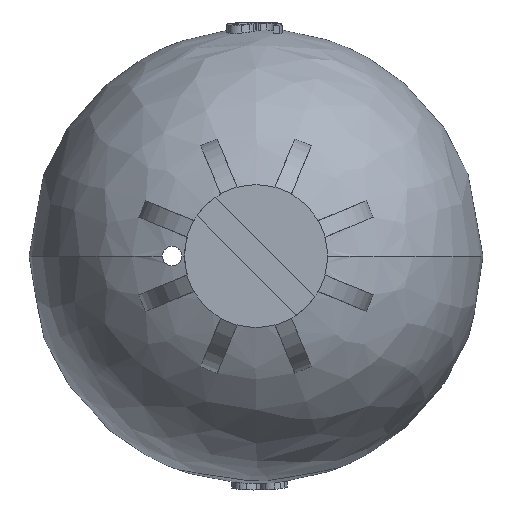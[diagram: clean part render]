
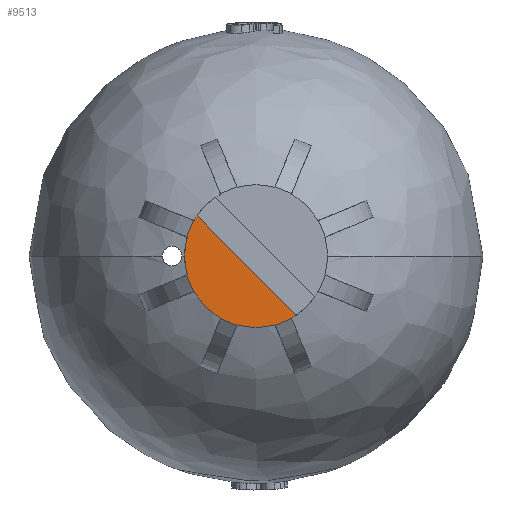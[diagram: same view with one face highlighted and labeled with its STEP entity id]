
A CAD part, left-side view. The second image highlights one B-rep face of the part: STEP entity #9513.
In plain terms, the highlighted planar face has unit normal (-1, 0, 0).
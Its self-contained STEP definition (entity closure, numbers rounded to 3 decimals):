
#595 = EDGE_CURVE ( 'NONE', #11705, #11704, #2708, .T. ) ;
#598 = EDGE_CURVE ( 'NONE', #11697, #11710, #6821, .T. ) ;
#601 = EDGE_CURVE ( 'NONE', #11653, #11652, #6826, .T. ) ;
#604 = EDGE_CURVE ( 'NONE', #11655, #11654, #6829, .T. ) ;
#607 = EDGE_CURVE ( 'NONE', #11657, #11656, #6823, .T. ) ;
#616 = EDGE_CURVE ( 'NONE', #11665, #11664, #5432, .T. ) ;
#617 = EDGE_CURVE ( 'NONE', #11710, #11664, #5433, .T. ) ;
#618 = EDGE_CURVE ( 'NONE', #11705, #11665, #5434, .T. ) ;
#619 = EDGE_CURVE ( 'NONE', #11657, #11704, #5435, .T. ) ;
#620 = EDGE_CURVE ( 'NONE', #11656, #11666, #5436, .T. ) ;
#621 = EDGE_CURVE ( 'NONE', #11667, #11666, #5437, .T. ) ;
#622 = EDGE_CURVE ( 'NONE', #11655, #11667, #5438, .T. ) ;
#623 = EDGE_CURVE ( 'NONE', #11654, #11668, #5439, .T. ) ;
#624 = EDGE_CURVE ( 'NONE', #11669, #11668, #5440, .T. ) ;
#625 = EDGE_CURVE ( 'NONE', #11653, #11669, #5441, .T. ) ;
#626 = EDGE_CURVE ( 'NONE', #11652, #11670, #5442, .T. ) ;
#627 = EDGE_CURVE ( 'NONE', #11671, #11670, #5443, .T. ) ;
#628 = EDGE_CURVE ( 'NONE', #11697, #11671, #5444, .T. ) ;
#2708 = CIRCLE ( 'NONE', #2710, 3.999 ) ;
#2710 = AXIS2_PLACEMENT_3D ( 'NONE', #6130, #6131, #6132 ) ;
#5432 = LINE ( 'NONE', #6180, #6847 ) ;
#5433 = LINE ( 'NONE', #6182, #6848 ) ;
#5434 = LINE ( 'NONE', #6184, #6849 ) ;
#5435 = LINE ( 'NONE', #6186, #6850 ) ;
#5436 = LINE ( 'NONE', #6188, #6851 ) ;
#5437 = LINE ( 'NONE', #6190, #6852 ) ;
#5438 = LINE ( 'NONE', #6192, #6853 ) ;
#5439 = LINE ( 'NONE', #6194, #6854 ) ;
#5440 = LINE ( 'NONE', #6196, #6855 ) ;
#5441 = LINE ( 'NONE', #6198, #6856 ) ;
#5442 = LINE ( 'NONE', #6200, #6857 ) ;
#5443 = LINE ( 'NONE', #6202, #6858 ) ;
#5444 = LINE ( 'NONE', #6204, #6859 ) ;
#5500 = FACE_OUTER_BOUND ( 'NONE', #10700, .T. ) ;
#6130 = CARTESIAN_POINT ( 'NONE',  ( -26.087, 0., 0. ) ) ;
#6131 = DIRECTION ( 'NONE',  ( -1., 0., 0. ) ) ;
#6132 = DIRECTION ( 'NONE',  ( 0., -1., 0. ) ) ;
#6137 = CARTESIAN_POINT ( 'NONE',  ( -26.087, 0., 0. ) ) ;
#6138 = DIRECTION ( 'NONE',  ( -1., 0., 0. ) ) ;
#6139 = DIRECTION ( 'NONE',  ( 0., -1., 0. ) ) ;
#6144 = CARTESIAN_POINT ( 'NONE',  ( -26.087, 0., 0. ) ) ;
#6145 = DIRECTION ( 'NONE',  ( -1., 0., 0. ) ) ;
#6146 = DIRECTION ( 'NONE',  ( 0., -1., 0. ) ) ;
#6151 = CARTESIAN_POINT ( 'NONE',  ( -26.087, 0., 0. ) ) ;
#6152 = DIRECTION ( 'NONE',  ( -1., 0., 0. ) ) ;
#6153 = DIRECTION ( 'NONE',  ( 0., -1., 0. ) ) ;
#6158 = CARTESIAN_POINT ( 'NONE',  ( -26.087, 0., 0. ) ) ;
#6159 = DIRECTION ( 'NONE',  ( -1., 0., 0. ) ) ;
#6160 = DIRECTION ( 'NONE',  ( 0., -1., 0. ) ) ;
#6180 = CARTESIAN_POINT ( 'NONE',  ( -26.087, -1.992, -3.503 ) ) ;
#6181 = DIRECTION ( 'NONE',  ( 0., 0.924, -0.383 ) ) ;
#6182 = CARTESIAN_POINT ( 'NONE',  ( -26.087, -0.916, -3.518 ) ) ;
#6183 = DIRECTION ( 'NONE',  ( 0., -0.383, -0.924 ) ) ;
#6184 = CARTESIAN_POINT ( 'NONE',  ( -26.087, -1.84, -3.135 ) ) ;
#6185 = DIRECTION ( 'NONE',  ( 0., -0.383, -0.924 ) ) ;
#6186 = CARTESIAN_POINT ( 'NONE',  ( -26.087, 2.53, 1.469 ) ) ;
#6187 = DIRECTION ( 'NONE',  ( 0., -0.707, -0.707 ) ) ;
#6188 = CARTESIAN_POINT ( 'NONE',  ( -26.087, 3.135, 1.84 ) ) ;
#6189 = DIRECTION ( 'NONE',  ( 0., 0.924, 0.383 ) ) ;
#6190 = CARTESIAN_POINT ( 'NONE',  ( -26.087, 3.886, 1.068 ) ) ;
#6191 = DIRECTION ( 'NONE',  ( 0., -0.383, 0.924 ) ) ;
#6192 = CARTESIAN_POINT ( 'NONE',  ( -26.087, 3.518, 0.916 ) ) ;
#6193 = DIRECTION ( 'NONE',  ( 0., 0.924, 0.383 ) ) ;
#6194 = CARTESIAN_POINT ( 'NONE',  ( -26.087, 3.518, -0.916 ) ) ;
#6195 = DIRECTION ( 'NONE',  ( 0., 0.924, -0.383 ) ) ;
#6196 = CARTESIAN_POINT ( 'NONE',  ( -26.087, 3.503, -1.992 ) ) ;
#6197 = DIRECTION ( 'NONE',  ( 0., 0.383, 0.924 ) ) ;
#6198 = CARTESIAN_POINT ( 'NONE',  ( -26.087, 3.135, -1.84 ) ) ;
#6199 = DIRECTION ( 'NONE',  ( 0., 0.924, -0.383 ) ) ;
#6200 = CARTESIAN_POINT ( 'NONE',  ( -26.087, 1.84, -3.135 ) ) ;
#6201 = DIRECTION ( 'NONE',  ( 0., 0.383, -0.924 ) ) ;
#6202 = CARTESIAN_POINT ( 'NONE',  ( -26.087, 1.068, -3.886 ) ) ;
#6203 = DIRECTION ( 'NONE',  ( 0., 0.924, 0.383 ) ) ;
#6204 = CARTESIAN_POINT ( 'NONE',  ( -26.087, 0.916, -3.518 ) ) ;
#6205 = DIRECTION ( 'NONE',  ( 0., 0.383, -0.924 ) ) ;
#6821 = CIRCLE ( 'NONE', #6822, 3.999 ) ;
#6822 = AXIS2_PLACEMENT_3D ( 'NONE', #6137, #6138, #6139 ) ;
#6823 = CIRCLE ( 'NONE', #6837, 3.999 ) ;
#6826 = CIRCLE ( 'NONE', #6828, 3.999 ) ;
#6828 = AXIS2_PLACEMENT_3D ( 'NONE', #6144, #6145, #6146 ) ;
#6829 = CIRCLE ( 'NONE', #6833, 3.999 ) ;
#6833 = AXIS2_PLACEMENT_3D ( 'NONE', #6151, #6152, #6153 ) ;
#6837 = AXIS2_PLACEMENT_3D ( 'NONE', #6158, #6159, #6160 ) ;
#6847 = VECTOR ( 'NONE', #6181, 1000. ) ;
#6848 = VECTOR ( 'NONE', #6183, 1000. ) ;
#6849 = VECTOR ( 'NONE', #6185, 1000. ) ;
#6850 = VECTOR ( 'NONE', #6187, 1000. ) ;
#6851 = VECTOR ( 'NONE', #6189, 1000. ) ;
#6852 = VECTOR ( 'NONE', #6191, 1000. ) ;
#6853 = VECTOR ( 'NONE', #6193, 1000. ) ;
#6854 = VECTOR ( 'NONE', #6195, 1000. ) ;
#6855 = VECTOR ( 'NONE', #6197, 1000. ) ;
#6856 = VECTOR ( 'NONE', #6199, 1000. ) ;
#6857 = VECTOR ( 'NONE', #6201, 1000. ) ;
#6858 = VECTOR ( 'NONE', #6203, 1000. ) ;
#6859 = VECTOR ( 'NONE', #6205, 1000. ) ;
#6977 = AXIS2_PLACEMENT_3D ( 'NONE', #7234, #7235, #7236 ) ;
#7233 = PLANE ( 'NONE',  #6977 ) ;
#7234 = CARTESIAN_POINT ( 'NONE',  ( -26.087, 3.999, 0. ) ) ;
#7235 = DIRECTION ( 'NONE',  ( 1., 0., 0. ) ) ;
#7236 = DIRECTION ( 'NONE',  ( 0., 1., 0. ) ) ;
#9103 = CARTESIAN_POINT ( 'NONE',  ( -26.087, 1.98, -3.474 ) ) ;
#9104 = CARTESIAN_POINT ( 'NONE',  ( -26.087, 3.474, -1.98 ) ) ;
#9105 = CARTESIAN_POINT ( 'NONE',  ( -26.087, 3.857, -1.056 ) ) ;
#9106 = CARTESIAN_POINT ( 'NONE',  ( -26.087, 3.857, 1.056 ) ) ;
#9107 = CARTESIAN_POINT ( 'NONE',  ( -26.087, 3.474, 1.98 ) ) ;
#9108 = CARTESIAN_POINT ( 'NONE',  ( -26.087, 3.308, 2.247 ) ) ;
#9115 = CARTESIAN_POINT ( 'NONE',  ( -26.087, -1.068, -3.886 ) ) ;
#9116 = CARTESIAN_POINT ( 'NONE',  ( -26.087, -1.992, -3.503 ) ) ;
#9117 = CARTESIAN_POINT ( 'NONE',  ( -26.087, 3.503, 1.992 ) ) ;
#9118 = CARTESIAN_POINT ( 'NONE',  ( -26.087, 3.886, 1.068 ) ) ;
#9119 = CARTESIAN_POINT ( 'NONE',  ( -26.087, 3.886, -1.068 ) ) ;
#9120 = CARTESIAN_POINT ( 'NONE',  ( -26.087, 3.503, -1.992 ) ) ;
#9121 = CARTESIAN_POINT ( 'NONE',  ( -26.087, 1.992, -3.503 ) ) ;
#9122 = CARTESIAN_POINT ( 'NONE',  ( -26.087, 1.068, -3.886 ) ) ;
#9148 = CARTESIAN_POINT ( 'NONE',  ( -26.087, 1.056, -3.857 ) ) ;
#9155 = CARTESIAN_POINT ( 'NONE',  ( -26.087, -2.247, -3.308 ) ) ;
#9156 = CARTESIAN_POINT ( 'NONE',  ( -26.087, -1.98, -3.474 ) ) ;
#9161 = CARTESIAN_POINT ( 'NONE',  ( -26.087, -1.056, -3.857 ) ) ;
#9513 = ADVANCED_FACE ( 'NONE', ( #5500 ), #7233, .F. ) ;
#10700 = EDGE_LOOP ( 'NONE', ( #12113, #12115, #12114, #12116, #12117, #12118, #12119, #12121, #12120, #12122, #12123, #12125, #12124, #12126, #12127, #12129, #12128, #12130 ) ) ;
#11652 = VERTEX_POINT ( 'NONE', #9103 ) ;
#11653 = VERTEX_POINT ( 'NONE', #9104 ) ;
#11654 = VERTEX_POINT ( 'NONE', #9105 ) ;
#11655 = VERTEX_POINT ( 'NONE', #9106 ) ;
#11656 = VERTEX_POINT ( 'NONE', #9107 ) ;
#11657 = VERTEX_POINT ( 'NONE', #9108 ) ;
#11664 = VERTEX_POINT ( 'NONE', #9115 ) ;
#11665 = VERTEX_POINT ( 'NONE', #9116 ) ;
#11666 = VERTEX_POINT ( 'NONE', #9117 ) ;
#11667 = VERTEX_POINT ( 'NONE', #9118 ) ;
#11668 = VERTEX_POINT ( 'NONE', #9119 ) ;
#11669 = VERTEX_POINT ( 'NONE', #9120 ) ;
#11670 = VERTEX_POINT ( 'NONE', #9121 ) ;
#11671 = VERTEX_POINT ( 'NONE', #9122 ) ;
#11697 = VERTEX_POINT ( 'NONE', #9148 ) ;
#11704 = VERTEX_POINT ( 'NONE', #9155 ) ;
#11705 = VERTEX_POINT ( 'NONE', #9156 ) ;
#11710 = VERTEX_POINT ( 'NONE', #9161 ) ;
#12113 = ORIENTED_EDGE ( 'NONE', *, *, #617, .T. ) ;
#12114 = ORIENTED_EDGE ( 'NONE', *, *, #618, .F. ) ;
#12115 = ORIENTED_EDGE ( 'NONE', *, *, #616, .F. ) ;
#12116 = ORIENTED_EDGE ( 'NONE', *, *, #595, .T. ) ;
#12117 = ORIENTED_EDGE ( 'NONE', *, *, #619, .F. ) ;
#12118 = ORIENTED_EDGE ( 'NONE', *, *, #607, .T. ) ;
#12119 = ORIENTED_EDGE ( 'NONE', *, *, #620, .T. ) ;
#12120 = ORIENTED_EDGE ( 'NONE', *, *, #622, .F. ) ;
#12121 = ORIENTED_EDGE ( 'NONE', *, *, #621, .F. ) ;
#12122 = ORIENTED_EDGE ( 'NONE', *, *, #604, .T. ) ;
#12123 = ORIENTED_EDGE ( 'NONE', *, *, #623, .T. ) ;
#12124 = ORIENTED_EDGE ( 'NONE', *, *, #625, .F. ) ;
#12125 = ORIENTED_EDGE ( 'NONE', *, *, #624, .F. ) ;
#12126 = ORIENTED_EDGE ( 'NONE', *, *, #601, .T. ) ;
#12127 = ORIENTED_EDGE ( 'NONE', *, *, #626, .T. ) ;
#12128 = ORIENTED_EDGE ( 'NONE', *, *, #628, .F. ) ;
#12129 = ORIENTED_EDGE ( 'NONE', *, *, #627, .F. ) ;
#12130 = ORIENTED_EDGE ( 'NONE', *, *, #598, .T. ) ;
